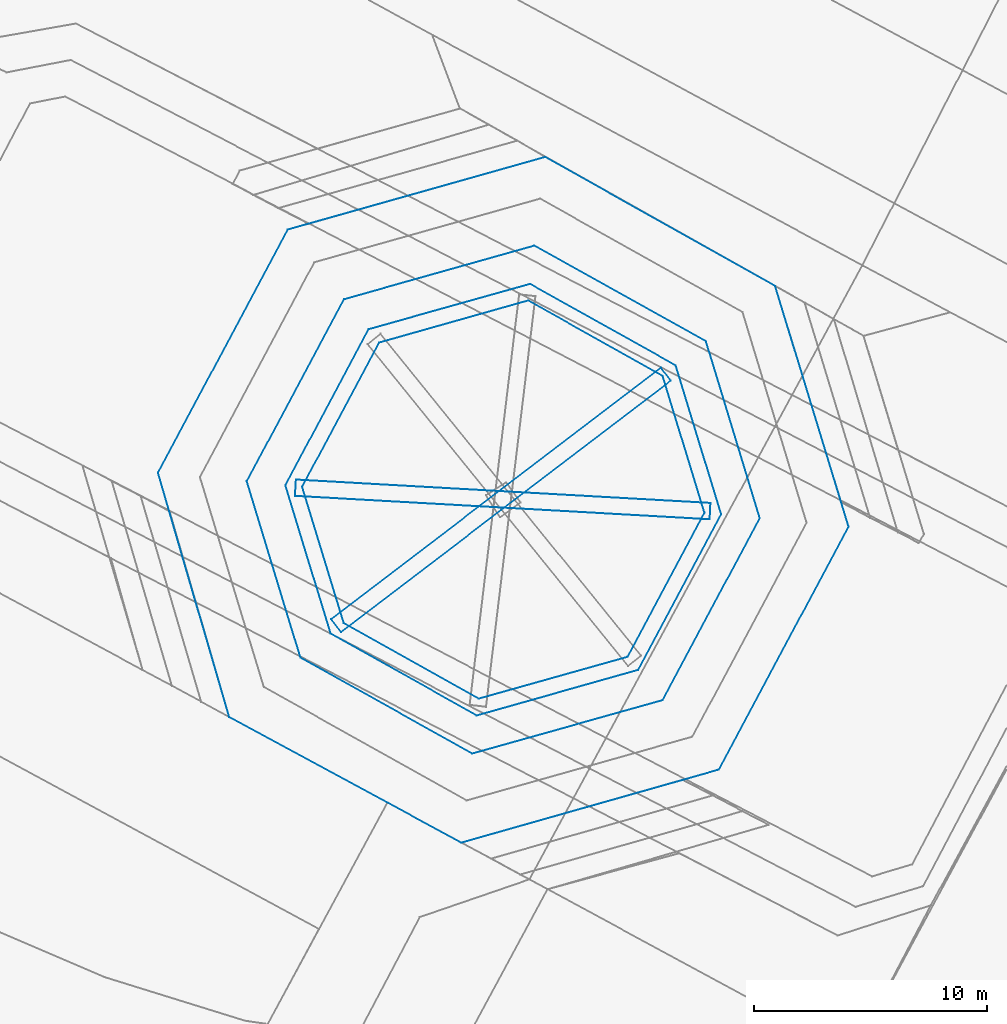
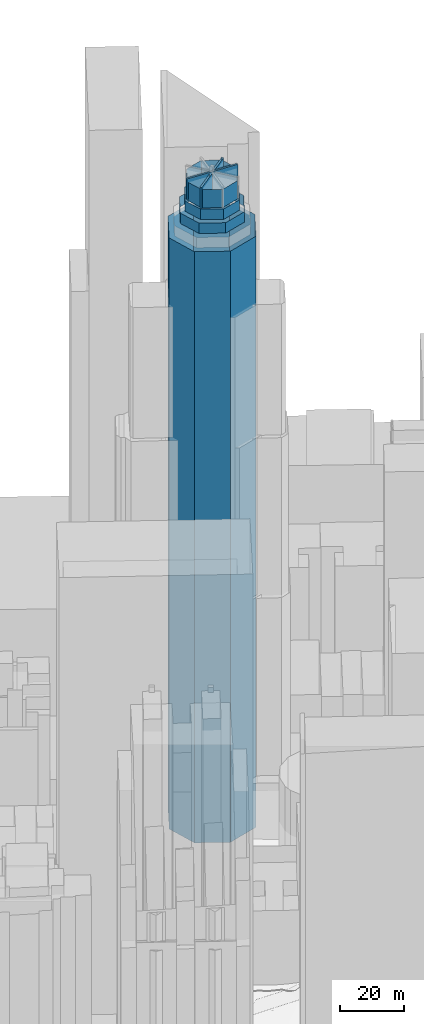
# Not in any storey, part 26 of 80: 6 walls.
"""IFC4 building model written with IfcOpenShell, lengths in metres."""

import ifcopenshell
import ifcopenshell.guid

model = None  # the IFC model being written
_history = None  # IfcOwnerHistory: only IFC2X3 demands one
_inside = {}  # id of a spatial element -> (the spatial element, [elements in it])
_under = {}  # id of a project, library or spatial element -> (it, [spatial elements below it])
_declared = {}  # id of a project -> (the project, [libraries it declares])
_typed = {}  # id of a type object -> (the type object, [elements of that type])
_made_of = {}  # id of a material, layer set ... -> (it, [elements and type objects made of it])


def new_model(schema):
    """Start an empty IFC model of exactly this schema.

    Asked for "IFC4X3", IfcOpenShell would pick the latest addendum, in which some entities
    have other attributes; the version numbers below select the first issue.
    IFC2X3 requires an IfcOwnerHistory on every rooted entity: one is made here for all.
    """
    global model, _history
    if schema == "IFC4X3":
        model = ifcopenshell.file(schema_version=(4, 3, 0, 0))
    else:
        model = ifcopenshell.file(schema=schema)
    _inside.clear()
    _under.clear()
    _declared.clear()
    _typed.clear()
    _made_of.clear()
    _history = None
    if model.schema == "IFC2X3":
        org = make("IfcOrganization", Name="unknown")
        user = make(
            "IfcPersonAndOrganization",
            ThePerson=make("IfcPerson", FamilyName="unknown"),
            TheOrganization=org,
        )
        app = make(
            "IfcApplication",
            ApplicationDeveloper=org,
            Version="unknown",
            ApplicationFullName="unknown",
            ApplicationIdentifier="unknown",
        )
        _history = make(
            "IfcOwnerHistory",
            OwningUser=user,
            OwningApplication=app,
            ChangeAction="ADDED",
            CreationDate=0,
        )
    return model


def make(cls, **values):
    """One entity of the class cls with the attributes given. An attribute that is None is left unset."""
    return model.create_entity(
        cls, **{name: value for name, value in values.items() if value is not None}
    )


def rooted(cls, **values):
    """An entity with a GlobalId (a new one), such as an element, a storey or a relation."""
    return make(cls, GlobalId=ifcopenshell.guid.new(), OwnerHistory=_history, **values)


def si_unit(unit_type, name, prefix=None):
    """IfcSIUnit, for example si_unit("LENGTHUNIT", "METRE", prefix="MILLI")."""
    return make("IfcSIUnit", UnitType=unit_type, Prefix=prefix, Name=name)


def assignment(units):
    """IfcUnitAssignment: the units of a project."""
    return None if units is None else make("IfcUnitAssignment", Units=units)


def point(xyz):
    """IfcCartesianPoint."""
    return None if xyz is None else make("IfcCartesianPoint", Coordinates=xyz)


def direction(xyz):
    """IfcDirection."""
    return None if xyz is None else make("IfcDirection", DirectionRatios=xyz)


def frame(location, z_axis=None, x_axis=None):
    """IfcAxis2Placement3D, a coordinate frame: its origin and axes. An axis left out is left unset."""
    return make(
        "IfcAxis2Placement3D",
        Location=point(location),
        Axis=direction(z_axis),
        RefDirection=direction(x_axis),
    )


def origin_with_axes():
    """The frame at (0, 0, 0) with the z axis (0, 0, 1) and the x axis (1, 0, 0) written out."""
    return frame((0.0, 0.0, 0.0), z_axis=(0.0, 0.0, 1.0), x_axis=(1.0, 0.0, 0.0))


def place(relative_to, where):
    """IfcLocalPlacement: puts the frame where relative to a parent placement (None: the world)."""
    return make(
        "IfcLocalPlacement", PlacementRelTo=relative_to, RelativePlacement=where
    )


def context(
    kind, dimensions, precision=None, world=None, true_north=None, identifier=None
):
    """IfcGeometricRepresentationContext, for example the 3D "Model" context."""
    return make(
        "IfcGeometricRepresentationContext",
        ContextIdentifier=identifier,
        ContextType=kind,
        CoordinateSpaceDimension=dimensions,
        Precision=precision,
        WorldCoordinateSystem=world,
        TrueNorth=true_north,
    )


def subcontext(parent, identifier, kind, view, scale=None):
    """IfcGeometricRepresentationSubContext, for example "Body" below "Model"."""
    return make(
        "IfcGeometricRepresentationSubContext",
        ContextIdentifier=identifier,
        ContextType=kind,
        ParentContext=parent,
        TargetScale=scale,
        TargetView=view,
    )


def project(units=None, contexts=None):
    """IfcProject with its units and contexts."""
    return rooted(
        "IfcProject",
        Name="project",
        RepresentationContexts=contexts,
        UnitsInContext=assignment(units),
    )


def spatial(cls, under=None, at=None, **own):
    """A site, building, storey or space (cls), placed at a placement, below another one or the project."""
    s = rooted(cls, ObjectPlacement=at, **own)
    if under is not None:
        _under.setdefault(under.id(), (under, []))[1].append(s)
    return s


def point_list(points):
    """IfcCartesianPointList2D or 3D."""
    cls = (
        "IfcCartesianPointList2D" if len(points[0]) == 2 else "IfcCartesianPointList3D"
    )
    return make(cls, CoordList=points)


def polygons(points, faces, closed=None, point_numbers=None):
    """IfcPolygonalFaceSet: a face is its outer loop, then its inner loops; points numbered from 1."""
    made = []
    for loops in faces:
        if len(loops) == 1:
            made.append(make("IfcIndexedPolygonalFace", CoordIndex=loops[0]))
        else:
            made.append(
                make(
                    "IfcIndexedPolygonalFaceWithVoids",
                    CoordIndex=loops[0],
                    InnerCoordIndices=loops[1:],
                )
            )
    return make(
        "IfcPolygonalFaceSet",
        Coordinates=point_list(points),
        Closed=closed,
        Faces=made,
        PnIndex=point_numbers,
    )


def shape(context_of_items, identifier, shape_type, items):
    """IfcShapeRepresentation: the items that make up one representation, for example the "Body"."""
    return make(
        "IfcShapeRepresentation",
        ContextOfItems=context_of_items,
        RepresentationIdentifier=identifier,
        RepresentationType=shape_type,
        Items=items,
    )


def made_of(thing, what):
    """Note that an element or type object is made of a material, layer set ...; save() writes the relation."""
    if what is not None:
        _made_of.setdefault(what.id(), (what, []))[1].append(thing)
    return thing


def element(
    cls,
    number,
    at=None,
    inside=None,
    cuts=None,
    type_object=None,
    material=None,
    context=None,
    identifier="Body",
    shape_type=None,
    held_by="IfcProductDefinitionShape",
    body=None,
    shapes=None,
    **own,
):
    """One element of the class cls, such as IfcWall. Its Tag is "e" and its number.

    at: its placement. inside: the storey or other place that contains it. cuts: it is an
    opening in that element (IfcRelVoidsElement). A single representation is given by context,
    identifier, shape_type and body (its items); several are given by shapes. held_by: the class
    of the entity that holds the representations. save() writes the other relations.
    """
    e = rooted(cls, Tag="e%d" % number, ObjectPlacement=at, **own)
    if body is not None:
        shapes = [shape(context, identifier, shape_type, body)]
    if shapes is not None:
        e.Representation = make(held_by, Representations=shapes)
    if inside is not None:
        _inside.setdefault(inside.id(), (inside, []))[1].append(e)
    if cuts is not None:
        rooted(
            "IfcRelVoidsElement", RelatingBuildingElement=cuts, RelatedOpeningElement=e
        )
    if type_object is not None:
        _typed.setdefault(type_object.id(), (type_object, []))[1].append(e)
    return made_of(e, material)


def aggregate(whole, parts):
    """IfcRelAggregates: a whole, such as a stair, and the parts it consists of."""
    return rooted("IfcRelAggregates", RelatingObject=whole, RelatedObjects=parts)


def save(model, path):
    """Write the relations noted so far, then the file.

    IfcRelAggregates (storeys below a building ...), IfcRelContainedInSpatialStructure (elements
    in a storey), IfcRelDefinesByType, IfcRelAssociatesMaterial and IfcRelDeclares: one each for
    every whole, place, type object, material and project.
    """
    for whole, parts in _under.values():
        aggregate(whole, parts)
    for where, things in _inside.values():
        rooted(
            "IfcRelContainedInSpatialStructure",
            RelatedElements=things,
            RelatingStructure=where,
        )
    for kind, things in _typed.values():
        rooted("IfcRelDefinesByType", RelatedObjects=things, RelatingType=kind)
    for what, things in _made_of.values():
        rooted("IfcRelAssociatesMaterial", RelatedObjects=things, RelatingMaterial=what)
    for by, libraries in _declared.values():
        rooted("IfcRelDeclares", RelatingContext=by, RelatedDefinitions=libraries)
    model.write(path)


model = new_model("IFC4")

# Units and contexts
model_context = context("Model", 3, precision=1e-05, world=origin_with_axes())
body_context = subcontext(model_context, "Body", "Model", "MODEL_VIEW")
ifc_project = project(units=[si_unit("AREAUNIT", "SQUARE_METRE"), si_unit("LENGTHUNIT", "METRE")], contexts=[model_context])

# Sites, building
site_1_placement = place(None, origin_with_axes())
site_1 = spatial("IfcSite", under=ifc_project, at=site_1_placement, Name="Topoexport Site")
site_2_placement = place(site_1_placement, origin_with_axes())
site_2 = spatial("IfcSite", under=site_1, at=site_2_placement, Name="TPX_BATIMENTS")
building_1_placement = place(site_2_placement, frame((198.9155746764, 285.0290795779, 259.6639688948), z_axis=(0.0, 0.0, 1.0), x_axis=(1.0, 0.0, 0.0)))
building_1 = spatial("IfcBuilding", under=site_2, at=building_1_placement, Name="Batiment 110", CompositionType="ELEMENT")

# Wall
wall_1_placement = place(None, frame((198.9155746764, 285.0290795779, 259.6639688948), z_axis=(0.0, 0.0, 1.0), x_axis=(1.0, 0.0, 0.0)))
element("IfcWall", 1, at=wall_1_placement, inside=building_1, Name="Mur 0", context=body_context, shape_type="Tessellation", body=[
    polygons([(0.0, 0.0, 0.0), (0.4284669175, -0.5501306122, 0.0), (14.5773925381, 10.2392690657, 0.0), (14.1487960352, 10.8004996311, 0.0), (0.0, 0.0, 8.0), (0.4284669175, -0.5501306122, 8.0), (14.5773925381, 10.2392690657, 8.0), (14.1487960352, 10.8004996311, 8.0)], [[[6, 5, 2]], [[2, 5, 1]], [[7, 6, 3]], [[3, 6, 2]], [[5, 8, 1]], [[1, 8, 4]], [[8, 7, 4]], [[4, 7, 3]]]),
])

# Building
building_2_placement = place(site_2_placement, frame((197.6677213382, 290.7100275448, 259.7077898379), z_axis=(0.0, 0.0, 1.0), x_axis=(1.0, 0.0, 0.0)))
building_2 = spatial("IfcBuilding", under=site_2, at=building_2_placement, Name="Batiment 111", CompositionType="ELEMENT")

# Wall
wall_2_placement = place(None, frame((197.6677213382, 290.7100275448, 259.7077898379), z_axis=(0.0, 0.0, 1.0), x_axis=(1.0, 0.0, 0.0)))
element("IfcWall", 2, at=wall_2_placement, inside=building_2, Name="Mur 0", context=body_context, shape_type="Tessellation", body=[
    polygons([(0.0, 0.0, 0.0), (1.7900951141, -5.8522788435, 0.0), (7.5763793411, -9.0934656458, 0.0), (13.9625274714, -7.2983490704, 0.0), (17.2671074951, -1.1092659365, 0.0), (15.47687195, 4.7541101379, 0.0), (9.6905946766, 7.9952907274, 0.0), (3.3045880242, 6.1890768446, 0.0), (0.0, 0.0, 7.0), (1.7900951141, -5.8522788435, 7.0), (7.5763793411, -9.0934656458, 7.0), (13.9625274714, -7.2983490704, 7.0), (17.2671074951, -1.1092659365, 7.0), (15.47687195, 4.7541101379, 7.0), (9.6905946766, 7.9952907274, 7.0), (3.3045880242, 6.1890768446, 7.0)], [[[10, 9, 2]], [[2, 9, 1]], [[11, 10, 3]], [[3, 10, 2]], [[12, 11, 4]], [[4, 11, 3]], [[13, 12, 5]], [[5, 12, 4]], [[14, 13, 6]], [[6, 13, 5]], [[15, 14, 7]], [[7, 14, 6]], [[9, 16, 1]], [[1, 16, 8]], [[16, 15, 8]], [[8, 15, 7]]]),
])

# Building
building_3_placement = place(site_2_placement, frame((197.3599497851, 290.3178698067, 260.1111568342), z_axis=(0.0, 0.0, 1.0), x_axis=(1.0, 0.0, 0.0)))
building_3 = spatial("IfcBuilding", under=site_2, at=building_3_placement, Name="Batiment 112", CompositionType="ELEMENT")

# Wall
wall_3_placement = place(None, frame((197.3599497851, 290.3178698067, 260.1111568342), z_axis=(0.0, 0.0, 1.0), x_axis=(1.0, 0.0, 0.0)))
element("IfcWall", 3, at=wall_3_placement, inside=building_3, Name="Mur 0", context=body_context, shape_type="Tessellation", body=[
    polygons([(0.0, 0.0, 0.0), (17.7976823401, -1.0031756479, 0.0), (17.8317499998, -0.3033371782, 0.0), (0.0425095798, 0.6999365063, 0.0), (0.0, 0.0, 8.0), (17.7976823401, -1.0031756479, 8.0), (17.8317499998, -0.3033371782, 8.0), (0.0425095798, 0.6999365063, 8.0)], [[[6, 5, 2]], [[2, 5, 1]], [[7, 6, 3]], [[3, 6, 2]], [[5, 8, 1]], [[1, 8, 4]], [[8, 7, 4]], [[4, 7, 3]]]),
])

# Building
building_4_placement = place(site_2_placement, frame((196.9493964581, 290.7793907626, 255.631798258), z_axis=(0.0, 0.0, 1.0), x_axis=(1.0, 0.0, 0.0)))
building_4 = spatial("IfcBuilding", under=site_2, at=building_4_placement, Name="Batiment 113", CompositionType="ELEMENT")

# Wall
wall_4_placement = place(None, frame((196.9493964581, 290.7793907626, 255.631798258), z_axis=(0.0, 0.0, 1.0), x_axis=(1.0, 0.0, 0.0)))
element("IfcWall", 4, at=wall_4_placement, inside=building_4, Name="Mur 0", context=body_context, shape_type="Tessellation", body=[
    polygons([(0.0, 0.0, 0.0), (1.9480859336, -6.3722479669, 0.0), (8.2102521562, -9.8854576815, 0.0), (15.134770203, -7.9286484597, 0.0), (18.7037575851, -1.2479906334, 0.0), (16.7555291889, 5.1353539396, 0.0), (10.4935002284, 8.6374556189, 0.0), (3.5688676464, 6.6917512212, 0.0), (0.0, 0.0, 4.0), (1.9480859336, -6.3722479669, 4.0), (8.2102521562, -9.8854576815, 4.0), (15.134770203, -7.9286484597, 4.0), (18.7037575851, -1.2479906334, 4.0), (16.7555291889, 5.1353539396, 4.0), (10.4935002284, 8.6374556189, 4.0), (3.5688676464, 6.6917512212, 4.0)], [[[10, 9, 2]], [[2, 9, 1]], [[11, 10, 3]], [[3, 10, 2]], [[12, 11, 4]], [[4, 11, 3]], [[13, 12, 5]], [[5, 12, 4]], [[14, 13, 6]], [[6, 13, 5]], [[15, 14, 7]], [[7, 14, 6]], [[9, 16, 1]], [[1, 16, 8]], [[16, 15, 8]], [[8, 15, 7]]]),
])

# Building
building_5_placement = place(site_2_placement, frame((195.292913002, 290.9488680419, 251.4761187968), z_axis=(0.0, 0.0, 1.0), x_axis=(1.0, 0.0, 0.0)))
building_5 = spatial("IfcBuilding", under=site_2, at=building_5_placement, Name="Batiment 114", CompositionType="ELEMENT")

# Wall
wall_5_placement = place(None, frame((195.292913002, 290.9488680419, 251.4761187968), z_axis=(0.0, 0.0, 1.0), x_axis=(1.0, 0.0, 0.0)))
element("IfcWall", 5, at=wall_5_placement, inside=building_5, Name="Mur 0", context=body_context, shape_type="Tessellation", body=[
    polygons([(0.0, 0.0, 0.0), (2.308204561, -7.5782069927, 0.0), (9.6747051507, -11.6891998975, 0.0), (17.8446396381, -9.3959413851, 0.0), (22.0165962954, -1.5758398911, 0.0), (19.7083730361, 6.0023613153, 0.0), (12.3418838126, 10.1133441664, 0.0), (4.1720986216, 7.8089905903, 0.0), (0.0, 0.0, 4.0), (2.308204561, -7.5782069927, 4.0), (9.6747051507, -11.6891998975, 4.0), (17.8446396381, -9.3959413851, 4.0), (22.0165962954, -1.5758398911, 4.0), (19.7083730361, 6.0023613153, 4.0), (12.3418838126, 10.1133441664, 4.0), (4.1720986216, 7.8089905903, 4.0)], [[[10, 9, 2]], [[2, 9, 1]], [[11, 10, 3]], [[3, 10, 2]], [[12, 11, 4]], [[4, 11, 3]], [[13, 12, 5]], [[5, 12, 4]], [[14, 13, 6]], [[6, 13, 5]], [[15, 14, 7]], [[7, 14, 6]], [[9, 16, 1]], [[1, 16, 8]], [[16, 15, 8]], [[8, 15, 7]]]),
])

# Building
building_6_placement = place(site_2_placement, frame((191.4815843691, 291.3153359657, 21.0925550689), z_axis=(0.0, 0.0, 1.0), x_axis=(1.0, 0.0, 0.0)))
building_6 = spatial("IfcBuilding", under=site_2, at=building_6_placement, Name="Batiment 115", CompositionType="ELEMENT")

# Wall
wall_6_placement = place(None, frame((191.4815843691, 291.3153359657, 21.0925550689), z_axis=(0.0, 0.0, 1.0), x_axis=(1.0, 0.0, 0.0)))
element("IfcWall", 6, at=wall_6_placement, inside=building_6, Name="Mur 0", context=body_context, shape_type="Tessellation", body=[
    polygons([(0.0, 0.0, 0.0), (3.0595688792, -10.4893652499, 0.0), (13.0155840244, -15.880315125, 0.0), (24.0711095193, -12.7430327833, 0.0), (29.6392561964, -2.3087624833, 0.0), (26.4887462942, 8.0130012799, 0.0), (16.6070361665, 13.549126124, 0.0), (5.568169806, 10.4342520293, 0.0), (0.0, 0.0, 226.0), (3.0595688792, -10.4893652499, 226.0), (13.0155840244, -15.880315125, 226.0), (24.0711095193, -12.7430327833, 226.0), (29.6392561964, -2.3087624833, 226.0), (26.4887462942, 8.0130012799, 226.0), (16.6070361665, 13.549126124, 226.0), (5.568169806, 10.4342520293, 226.0)], [[[10, 9, 2]], [[2, 9, 1]], [[11, 10, 3]], [[3, 10, 2]], [[12, 11, 4]], [[4, 11, 3]], [[13, 12, 5]], [[5, 12, 4]], [[14, 13, 6]], [[6, 13, 5]], [[15, 14, 7]], [[7, 14, 6]], [[9, 16, 1]], [[1, 16, 8]], [[16, 15, 8]], [[8, 15, 7]]]),
])

save(model, "model.ifc")
